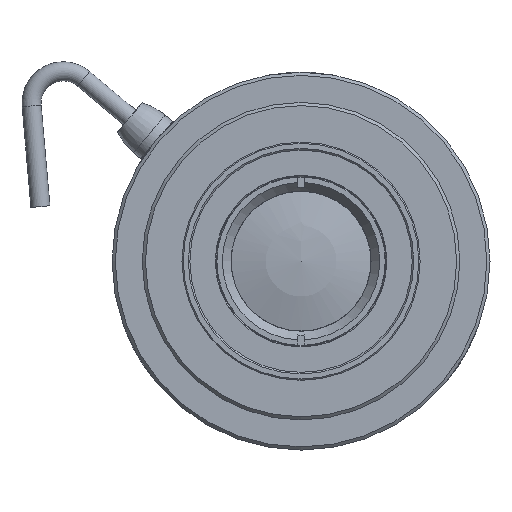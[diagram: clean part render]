
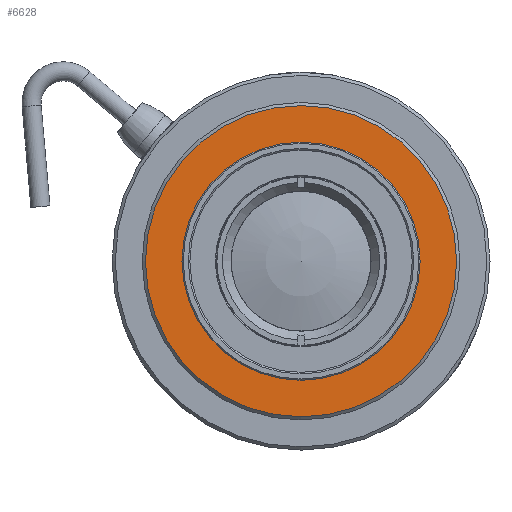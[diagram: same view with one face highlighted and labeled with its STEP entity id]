
A CAD part, front view. The second image highlights one B-rep face of the part: STEP entity #6628.
In plain terms, the highlighted planar face has unit normal (0, -1, 0).
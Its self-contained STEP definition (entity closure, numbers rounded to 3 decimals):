
#60=PLANE('',#6938);
#292=CIRCLE('',#6939,18.75);
#293=CIRCLE('',#6940,24.5);
#442=ORIENTED_EDGE('',*,*,#1704,.F.);
#443=ORIENTED_EDGE('',*,*,#1705,.F.);
#1704=EDGE_CURVE('',#2335,#2335,#292,.F.);
#1705=EDGE_CURVE('',#2336,#2336,#293,.T.);
#2335=VERTEX_POINT('',#8780);
#2336=VERTEX_POINT('',#8782);
#3721=EDGE_LOOP('',(#442));
#3722=EDGE_LOOP('',(#443));
#4123=FACE_BOUND('',#3721,.T.);
#4124=FACE_BOUND('',#3722,.T.);
#6628=ADVANCED_FACE('',(#4123,#4124),#60,.F.);
#6938=AXIS2_PLACEMENT_3D('',#8778,#7385,#7386);
#6939=AXIS2_PLACEMENT_3D('',#8779,#7387,#7388);
#6940=AXIS2_PLACEMENT_3D('',#8781,#7389,#7390);
#7385=DIRECTION('',(0.,1.,0.));
#7386=DIRECTION('',(0.,0.,1.));
#7387=DIRECTION('',(0.,1.,0.));
#7388=DIRECTION('',(0.,0.,1.));
#7389=DIRECTION('',(0.,1.,0.));
#7390=DIRECTION('',(0.,0.,1.));
#8778=CARTESIAN_POINT('',(0.,-73.726,20.5));
#8779=CARTESIAN_POINT('',(0.,-73.726,0.));
#8780=CARTESIAN_POINT('',(0.,-73.726,18.75));
#8781=CARTESIAN_POINT('',(0.,-73.726,0.));
#8782=CARTESIAN_POINT('',(0.,-73.726,24.5));
